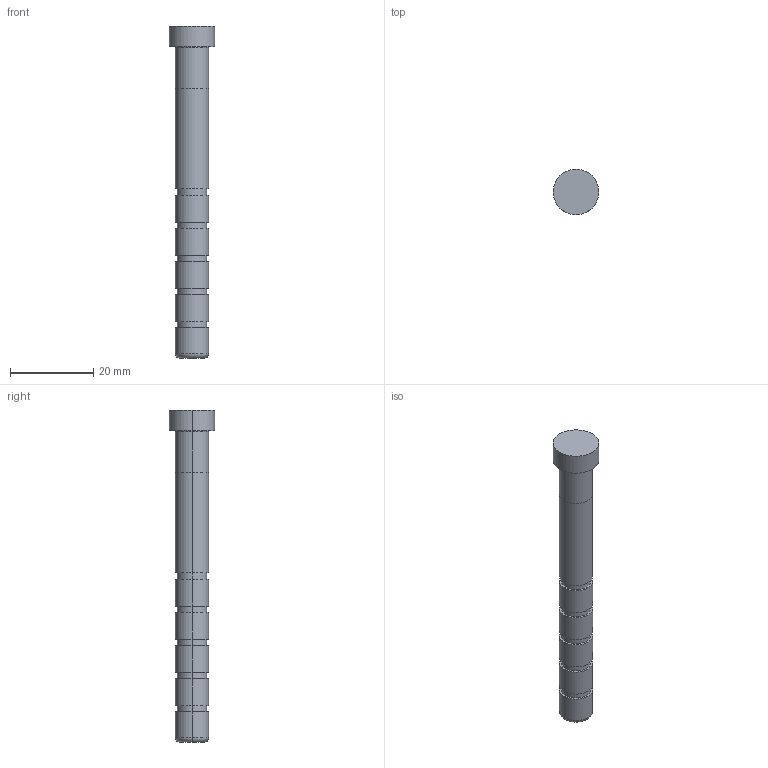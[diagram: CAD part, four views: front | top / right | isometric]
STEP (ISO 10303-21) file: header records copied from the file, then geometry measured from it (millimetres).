
FILE_DESCRIPTION(/* description */ (''),/* implementation_level */ '2;1');
FILE_NAME(/* name */ '3d_sgoh8-80_05215_r00.stp',/* time_stamp */ '2011-01-10T14:11:07+09:00',/* author */ ('MISUMI'),/* organization */ (''),/* preprocessor_version */ 'ST-DEVELOPER v11',/* originating_system */ 'UGS - NX 5.0',/* authorisation */ '');
FILE_SCHEMA (('CONFIG_CONTROL_DESIGN'));
Length unit declared in the file: millimetre
Products named in the file (1): 3d_sgoh8-80_05215_r00
Bounding box: 11 x 11 x 80 mm (x, y, z)
Volume: 4152 mm3; surface area: 2328.2 mm2
Topology: 1 solids, 1 shells, 43 faces, 84 edges, 54 vertices
Faces by surface type: cylinder 26, plane 13, torus 4
Entity records: 1214 total; most frequent: DIRECTION 230, CARTESIAN_POINT 182, ORIENTED_EDGE 168, AXIS2_PLACEMENT_3D 102, EDGE_CURVE 84, CIRCLE 58, EDGE_LOOP 54, VERTEX_POINT 54
